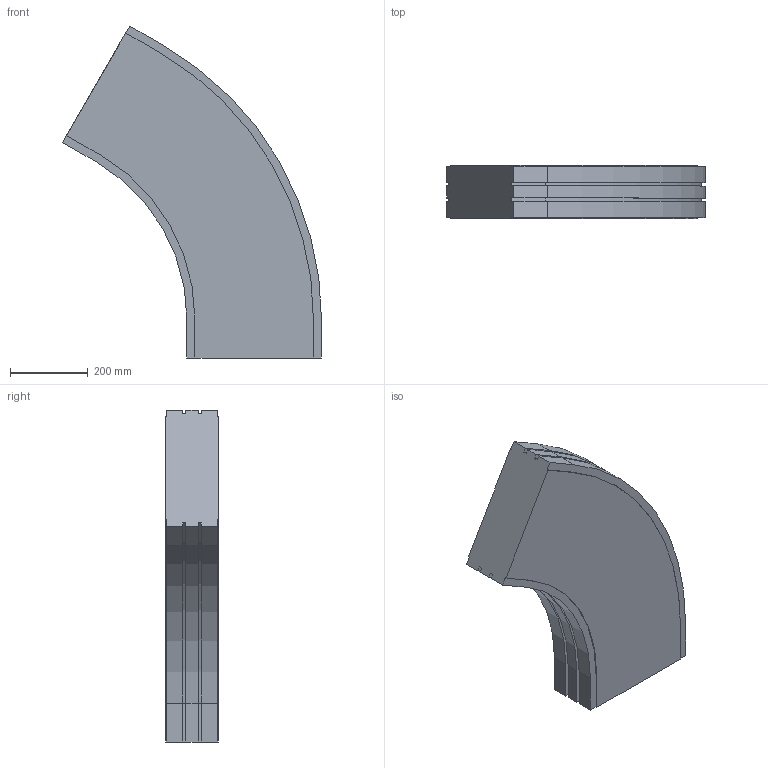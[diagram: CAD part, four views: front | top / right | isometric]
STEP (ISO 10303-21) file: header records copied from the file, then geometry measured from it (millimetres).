
FILE_DESCRIPTION (( 'STEP AP214' ), '1' );
FILE_NAME ('02.150H60.350.N FS-MTC-150 Bocht horizontaal 60°.STEP', '2013-03-21T10:44:56', ( 'Gebruiker' ), ( '' ), 'SwSTEP 2.0', 'SolidWorks 2012', '' );
FILE_SCHEMA (( 'AUTOMOTIVE_DESIGN' ));
Length unit declared in the file: millimetre
Products named in the file (1): 02.150H60.350.N FS-MTC-150 Bocht horizontaal 60°
Bounding box: 666.1 x 136 x 854.08 mm (x, y, z)
Volume: 40443714.2 mm3; surface area: 1008409.2 mm2
Topology: 1 solids, 1 shells, 58 faces, 168 edges, 112 vertices
Faces by surface type: plane 44, cylinder 14
Entity records: 1934 total; most frequent: CARTESIAN_POINT 339, ORIENTED_EDGE 336, DIRECTION 314, EDGE_CURVE 168, LINE 140, VECTOR 140, VERTEX_POINT 112, AXIS2_PLACEMENT_3D 87
